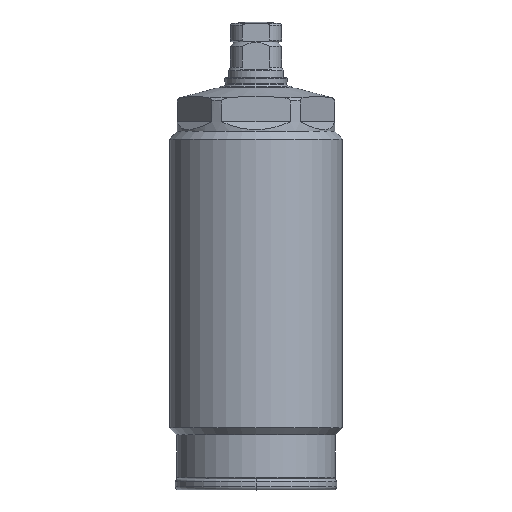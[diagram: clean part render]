
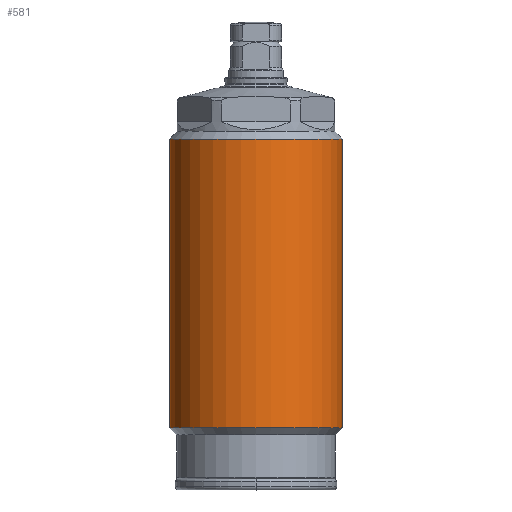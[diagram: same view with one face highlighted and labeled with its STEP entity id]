
A CAD part, top view. The second image highlights one B-rep face of the part: STEP entity #581.
In plain terms, the highlighted cylindrical face has radius 11 mm (diameter 22 mm), a partial arc.
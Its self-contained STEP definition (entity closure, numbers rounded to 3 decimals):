
#304=CYLINDRICAL_SURFACE('',#2907,11.);
#372=LINE('',#4454,#473);
#373=LINE('',#4458,#474);
#473=VECTOR('',#3497,1.);
#474=VECTOR('',#3500,1.);
#581=ADVANCED_FACE('',(#823),#304,.T.);
#823=FACE_OUTER_BOUND('',#992,.T.);
#992=EDGE_LOOP('',(#1312,#1313,#1314,#1315));
#1312=ORIENTED_EDGE('',*,*,#2269,.T.);
#1313=ORIENTED_EDGE('',*,*,#2271,.T.);
#1314=ORIENTED_EDGE('',*,*,#2272,.F.);
#1315=ORIENTED_EDGE('',*,*,#2273,.F.);
#2010=VERTEX_POINT('',#4449);
#2011=VERTEX_POINT('',#4451);
#2012=VERTEX_POINT('',#4455);
#2013=VERTEX_POINT('',#4457);
#2269=EDGE_CURVE('',#2011,#2010,#2620,.T.);
#2271=EDGE_CURVE('',#2010,#2012,#372,.T.);
#2272=EDGE_CURVE('',#2013,#2012,#2621,.T.);
#2273=EDGE_CURVE('',#2011,#2013,#373,.T.);
#2620=CIRCLE('',#2904,11.);
#2621=CIRCLE('',#2906,11.);
#2904=AXIS2_PLACEMENT_3D('',#4450,#3492,#3493);
#2906=AXIS2_PLACEMENT_3D('',#4456,#3498,#3499);
#2907=AXIS2_PLACEMENT_3D('',#4459,#3501,#3502);
#3492=DIRECTION('',(0.,-1.,0.));
#3493=DIRECTION('',(1.,0.,0.));
#3497=DIRECTION('',(0.,-1.,0.));
#3498=DIRECTION('',(0.,-1.,0.));
#3499=DIRECTION('',(1.,0.,0.));
#3500=DIRECTION('',(0.,-1.,0.));
#3501=DIRECTION('',(0.,-1.,0.));
#3502=DIRECTION('',(-1.,0.,0.));
#4449=CARTESIAN_POINT('',(-11.,47.46,0.));
#4450=CARTESIAN_POINT('',(0.,47.46,0.));
#4451=CARTESIAN_POINT('',(11.,47.46,0.));
#4454=CARTESIAN_POINT('',(-11.,4.06,0.));
#4455=CARTESIAN_POINT('',(-11.,10.76,0.));
#4456=CARTESIAN_POINT('',(0.,10.76,0.));
#4457=CARTESIAN_POINT('',(11.,10.76,0.));
#4458=CARTESIAN_POINT('',(11.,4.06,0.));
#4459=CARTESIAN_POINT('',(0.,4.06,0.));
